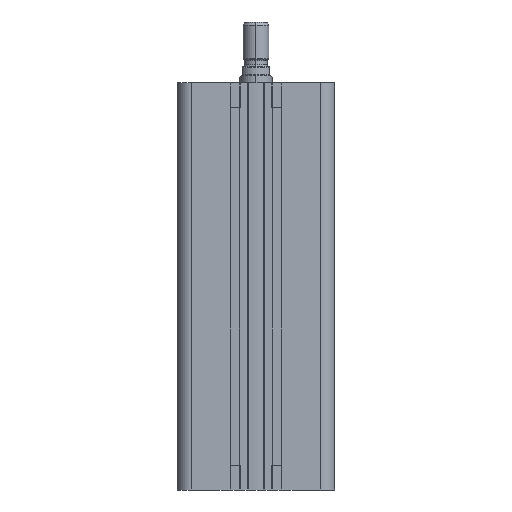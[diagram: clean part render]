
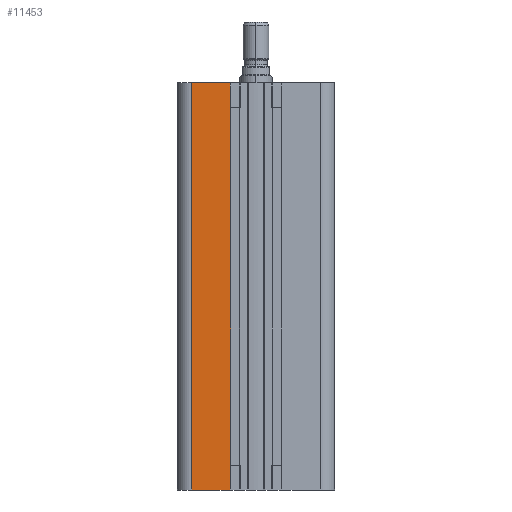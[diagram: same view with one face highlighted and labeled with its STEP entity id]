
A CAD part, left-side view. The second image highlights one B-rep face of the part: STEP entity #11453.
In plain terms, the highlighted planar face has unit normal (-1, 0, 0).
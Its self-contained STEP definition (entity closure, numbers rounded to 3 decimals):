
#710 = VERTEX_POINT ( 'NONE', #8076 ) ;
#721 = VERTEX_POINT ( 'NONE', #8087 ) ;
#722 = VERTEX_POINT ( 'NONE', #8088 ) ;
#837 = VERTEX_POINT ( 'NONE', #8203 ) ;
#2434 = LINE ( 'NONE', #12880, #2448 ) ;
#2442 = LINE ( 'NONE', #12867, #2444 ) ;
#2444 = VECTOR ( 'NONE', #12868, 1000. ) ;
#2448 = VECTOR ( 'NONE', #12876, 1000. ) ;
#2681 = LINE ( 'NONE', #16510, #2683 ) ;
#2683 = VECTOR ( 'NONE', #16511, 1000. ) ;
#2708 = LINE ( 'NONE', #16564, #2711 ) ;
#2711 = VECTOR ( 'NONE', #16565, 1000. ) ;
#3807 = ORIENTED_EDGE ( 'NONE', *, *, #7492, .T. ) ;
#3808 = ORIENTED_EDGE ( 'NONE', *, *, #16044, .F. ) ;
#3809 = ORIENTED_EDGE ( 'NONE', *, *, #14194, .F. ) ;
#3810 = ORIENTED_EDGE ( 'NONE', *, *, #14367, .T. ) ;
#3811 = ORIENTED_EDGE ( 'NONE', *, *, #14191, .T. ) ;
#3812 = ORIENTED_EDGE ( 'NONE', *, *, #14349, .F. ) ;
#3813 = ORIENTED_EDGE ( 'NONE', *, *, #7491, .F. ) ;
#3814 = ORIENTED_EDGE ( 'NONE', *, *, #15911, .F. ) ;
#4733 = CARTESIAN_POINT ( 'NONE',  ( -49., 40., 223. ) ) ;
#5060 = CARTESIAN_POINT ( 'NONE',  ( -49., 49., 238.5 ) ) ;
#5061 = DIRECTION ( 'NONE',  ( 0., -1., 0. ) ) ;
#5400 = CARTESIAN_POINT ( 'NONE',  ( -49., 49., -15.5 ) ) ;
#5401 = DIRECTION ( 'NONE',  ( 0., 1., 0. ) ) ;
#6322 = EDGE_LOOP ( 'NONE', ( #3807, #3808, #3809, #3810, #3811, #3812, #3813, #3814 ) ) ;
#7491 = EDGE_CURVE ( 'NONE', #13297, #837, #10447, .T. ) ;
#7492 = EDGE_CURVE ( 'NONE', #13298, #9834, #10440, .T. ) ;
#8076 = CARTESIAN_POINT ( 'NONE',  ( -49., 15.875, 0. ) ) ;
#8087 = CARTESIAN_POINT ( 'NONE',  ( -49., 15.875, 223. ) ) ;
#8088 = CARTESIAN_POINT ( 'NONE',  ( -49., 16.2, 0. ) ) ;
#8203 = CARTESIAN_POINT ( 'NONE',  ( -49., 16.2, 223. ) ) ;
#8641 = CARTESIAN_POINT ( 'NONE',  ( -49., 40., -15.5 ) ) ;
#8642 = CARTESIAN_POINT ( 'NONE',  ( -49., 16.2, -15.5 ) ) ;
#8946 = CARTESIAN_POINT ( 'NONE',  ( -49., 49., 223. ) ) ;
#8948 = PLANE ( 'NONE',  #10196 ) ;
#8951 = DIRECTION ( 'NONE',  ( 1., 0., 0. ) ) ;
#8952 = DIRECTION ( 'NONE',  ( 0., 1., 0. ) ) ;
#9834 = VERTEX_POINT ( 'NONE', #8641 ) ;
#9835 = VERTEX_POINT ( 'NONE', #8642 ) ;
#10196 = AXIS2_PLACEMENT_3D ( 'NONE', #8946, #8951, #8952 ) ;
#10440 = LINE ( 'NONE', #4733, #10453 ) ;
#10445 = VECTOR ( 'NONE', #11177, 1000. ) ;
#10447 = LINE ( 'NONE', #11173, #10445 ) ;
#10453 = VECTOR ( 'NONE', #11178, 1000. ) ;
#11173 = CARTESIAN_POINT ( 'NONE',  ( -49., 16.2, 363.493 ) ) ;
#11177 = DIRECTION ( 'NONE',  ( 0., 0., -1. ) ) ;
#11178 = DIRECTION ( 'NONE',  ( 0., 0., -1. ) ) ;
#11453 = ADVANCED_FACE ( 'NONE', ( #15290 ), #8948, .F. ) ;
#11973 = CARTESIAN_POINT ( 'NONE',  ( -49., 16.2, 238.5 ) ) ;
#11974 = CARTESIAN_POINT ( 'NONE',  ( -49., 40., 238.5 ) ) ;
#12867 = CARTESIAN_POINT ( 'NONE',  ( -49., 15.875, 223. ) ) ;
#12868 = DIRECTION ( 'NONE',  ( 0., 0., 1. ) ) ;
#12876 = DIRECTION ( 'NONE',  ( 0., 0., -1. ) ) ;
#12880 = CARTESIAN_POINT ( 'NONE',  ( -49., 16.2, 363.493 ) ) ;
#13297 = VERTEX_POINT ( 'NONE', #11973 ) ;
#13298 = VERTEX_POINT ( 'NONE', #11974 ) ;
#14191 = EDGE_CURVE ( 'NONE', #710, #721, #2442, .T. ) ;
#14194 = EDGE_CURVE ( 'NONE', #722, #9835, #2434, .T. ) ;
#14349 = EDGE_CURVE ( 'NONE', #837, #721, #2681, .T. ) ;
#14367 = EDGE_CURVE ( 'NONE', #722, #710, #2708, .T. ) ;
#15290 = FACE_OUTER_BOUND ( 'NONE', #6322, .T. ) ;
#15911 = EDGE_CURVE ( 'NONE', #13298, #13297, #17297, .T. ) ;
#16044 = EDGE_CURVE ( 'NONE', #9835, #9834, #17489, .T. ) ;
#16510 = CARTESIAN_POINT ( 'NONE',  ( -49., 49., 223. ) ) ;
#16511 = DIRECTION ( 'NONE',  ( 0., -1., 0. ) ) ;
#16564 = CARTESIAN_POINT ( 'NONE',  ( -49., 49., 0. ) ) ;
#16565 = DIRECTION ( 'NONE',  ( 0., -1., 0. ) ) ;
#17297 = LINE ( 'NONE', #5060, #17299 ) ;
#17299 = VECTOR ( 'NONE', #5061, 1000. ) ;
#17489 = LINE ( 'NONE', #5400, #17491 ) ;
#17491 = VECTOR ( 'NONE', #5401, 1000. ) ;
